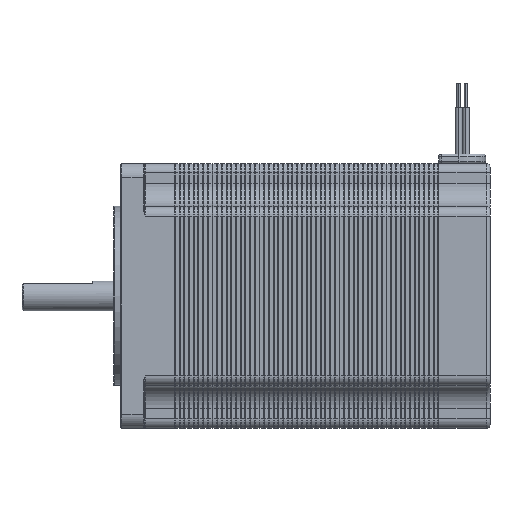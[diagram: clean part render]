
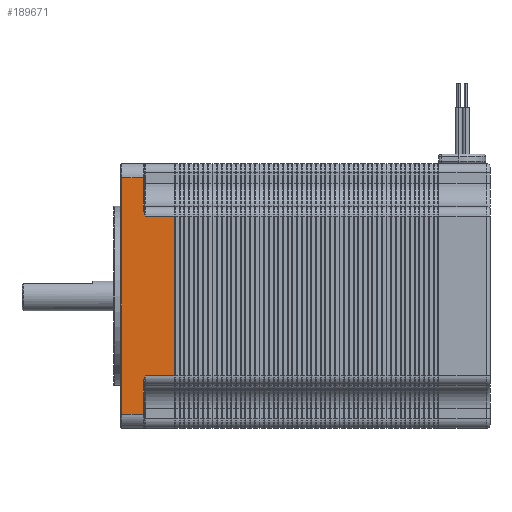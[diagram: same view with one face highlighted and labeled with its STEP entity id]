
A CAD part, left-side view. The second image highlights one B-rep face of the part: STEP entity #189671.
In plain terms, the highlighted planar face has unit normal (-1, 0, 0).
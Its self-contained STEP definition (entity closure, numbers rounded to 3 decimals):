
#402 = ORIENTED_EDGE ( 'NONE', *, *, #176997, .T. ) ;
#3460 = CARTESIAN_POINT ( 'NONE',  ( -28.15, 73.395, -17.201 ) ) ;
#3758 = EDGE_CURVE ( 'NONE', #114403, #187177, #89849, .T. ) ;
#8000 = CARTESIAN_POINT ( 'NONE',  ( -28.15, 73.7, 18.265 ) ) ;
#8196 = DIRECTION ( 'NONE',  ( 0., 1., 0. ) ) ;
#9201 = EDGE_CURVE ( 'NONE', #152617, #144584, #16132, .T. ) ;
#10884 = CARTESIAN_POINT ( 'NONE',  ( -28.15, 73.395, 17.202 ) ) ;
#12489 = VERTEX_POINT ( 'NONE', #189975 ) ;
#16132 = B_SPLINE_CURVE_WITH_KNOTS ( 'NONE', 3,
 ( #90865, #94654, #76349, #134969, #3460, #151218 ),
 .UNSPECIFIED., .F., .F.,
 ( 4, 2, 4 ),
 ( 0., 0.001, 0.001 ),
 .UNSPECIFIED. ) ;
#17826 = ORIENTED_EDGE ( 'NONE', *, *, #141565, .T. ) ;
#20924 = VECTOR ( 'NONE', #91085, 1000. ) ;
#25228 = CARTESIAN_POINT ( 'NONE',  ( -28.15, 73.3, 17. ) ) ;
#26137 = CARTESIAN_POINT ( 'NONE',  ( -28.15, 73.7, 18.265 ) ) ;
#29055 = ORIENTED_EDGE ( 'NONE', *, *, #35021, .T. ) ;
#31525 = CARTESIAN_POINT ( 'NONE',  ( -28.15, 73.7, -17. ) ) ;
#32385 = CARTESIAN_POINT ( 'NONE',  ( -28.15, 73.7, -17. ) ) ;
#34768 = ORIENTED_EDGE ( 'NONE', *, *, #144445, .T. ) ;
#35021 = EDGE_CURVE ( 'NONE', #148905, #12489, #106567, .T. ) ;
#37949 = LINE ( 'NONE', #96656, #57033 ) ;
#41232 = VECTOR ( 'NONE', #122805, 1000. ) ;
#42435 = CARTESIAN_POINT ( 'NONE',  ( -28.15, 73.642, 17.823 ) ) ;
#45924 = CARTESIAN_POINT ( 'NONE',  ( -28.15, 78.5, -17. ) ) ;
#48625 = VECTOR ( 'NONE', #78196, 1000. ) ;
#48736 = DIRECTION ( 'NONE',  ( 1., 0., 0. ) ) ;
#49688 = PLANE ( 'NONE',  #131573 ) ;
#49990 = CARTESIAN_POINT ( 'NONE',  ( -28.15, 73.3, -17. ) ) ;
#50435 = DIRECTION ( 'NONE',  ( 0., -1., 0. ) ) ;
#57033 = VECTOR ( 'NONE', #50435, 1000. ) ;
#60263 = LINE ( 'NONE', #32385, #20924 ) ;
#60661 = CARTESIAN_POINT ( 'NONE',  ( -28.15, 78.3, 25.15 ) ) ;
#61821 = DIRECTION ( 'NONE',  ( 0., 1., 0. ) ) ;
#71258 = CARTESIAN_POINT ( 'NONE',  ( -28.15, 73.491, 17.403 ) ) ;
#72640 = CARTESIAN_POINT ( 'NONE',  ( -28.15, 73.3, 17. ) ) ;
#73219 = VECTOR ( 'NONE', #8196, 1000. ) ;
#75022 = CARTESIAN_POINT ( 'NONE',  ( -28.15, 78.3, -25.15 ) ) ;
#75467 = CARTESIAN_POINT ( 'NONE',  ( -28.15, 73.7, -18.265 ) ) ;
#76349 = CARTESIAN_POINT ( 'NONE',  ( -28.15, 73.642, -17.823 ) ) ;
#76521 = EDGE_CURVE ( 'NONE', #114403, #152617, #60263, .T. ) ;
#77277 = LINE ( 'NONE', #135876, #48625 ) ;
#78196 = DIRECTION ( 'NONE',  ( 0., 0., 1. ) ) ;
#79733 = ORIENTED_EDGE ( 'NONE', *, *, #3758, .F. ) ;
#81064 = LINE ( 'NONE', #139687, #73219 ) ;
#89849 = LINE ( 'NONE', #117626, #187065 ) ;
#90865 = CARTESIAN_POINT ( 'NONE',  ( -28.15, 73.7, -18.265 ) ) ;
#91085 = DIRECTION ( 'NONE',  ( 0., 0., 1. ) ) ;
#94654 = CARTESIAN_POINT ( 'NONE',  ( -28.15, 73.7, -18.04 ) ) ;
#96656 = CARTESIAN_POINT ( 'NONE',  ( -28.15, 78.5, 17. ) ) ;
#98726 = ORIENTED_EDGE ( 'NONE', *, *, #182466, .T. ) ;
#100583 = ORIENTED_EDGE ( 'NONE', *, *, #9201, .T. ) ;
#104639 = DIRECTION ( 'NONE',  ( 0., 0., -1. ) ) ;
#105716 = B_SPLINE_CURVE_WITH_KNOTS ( 'NONE', 3,
 ( #25228, #10884, #71258, #42435, #157718, #26137 ),
 .UNSPECIFIED., .F., .F.,
 ( 4, 2, 4 ),
 ( 0., 0.001, 0.001 ),
 .UNSPECIFIED. ) ;
#106567 = LINE ( 'NONE', #31525, #41232 ) ;
#110738 = VERTEX_POINT ( 'NONE', #154236 ) ;
#111687 = CARTESIAN_POINT ( 'NONE',  ( -28.15, 78.5, -17. ) ) ;
#114403 = VERTEX_POINT ( 'NONE', #118290 ) ;
#116238 = VERTEX_POINT ( 'NONE', #183964 ) ;
#117626 = CARTESIAN_POINT ( 'NONE',  ( -28.15, 73.5, -25.15 ) ) ;
#118290 = CARTESIAN_POINT ( 'NONE',  ( -28.15, 73.7, -25.15 ) ) ;
#120215 = LINE ( 'NONE', #75022, #143227 ) ;
#121131 = DIRECTION ( 'NONE',  ( 0., 0., -1. ) ) ;
#121790 = FACE_OUTER_BOUND ( 'NONE', #176783, .T. ) ;
#122805 = DIRECTION ( 'NONE',  ( 0., 0., 1. ) ) ;
#126092 = LINE ( 'NONE', #111687, #177707 ) ;
#131573 = AXIS2_PLACEMENT_3D ( 'NONE', #45924, #48736, #104639 ) ;
#134969 = CARTESIAN_POINT ( 'NONE',  ( -28.15, 73.491, -17.403 ) ) ;
#135876 = CARTESIAN_POINT ( 'NONE',  ( -28.15, 67.1, -17. ) ) ;
#139178 = VERTEX_POINT ( 'NONE', #60661 ) ;
#139687 = CARTESIAN_POINT ( 'NONE',  ( -28.15, 73.5, 25.15 ) ) ;
#141565 = EDGE_CURVE ( 'NONE', #110738, #116238, #77277, .T. ) ;
#142379 = ORIENTED_EDGE ( 'NONE', *, *, #76521, .T. ) ;
#143227 = VECTOR ( 'NONE', #121131, 1000. ) ;
#144445 = EDGE_CURVE ( 'NONE', #177685, #148905, #105716, .T. ) ;
#144584 = VERTEX_POINT ( 'NONE', #49990 ) ;
#147109 = DIRECTION ( 'NONE',  ( 0., -1., 0. ) ) ;
#148905 = VERTEX_POINT ( 'NONE', #8000 ) ;
#150269 = EDGE_CURVE ( 'NONE', #177685, #116238, #37949, .T. ) ;
#151218 = CARTESIAN_POINT ( 'NONE',  ( -28.15, 73.3, -17. ) ) ;
#152617 = VERTEX_POINT ( 'NONE', #75467 ) ;
#154236 = CARTESIAN_POINT ( 'NONE',  ( -28.15, 67.1, -17. ) ) ;
#157561 = ORIENTED_EDGE ( 'NONE', *, *, #150269, .F. ) ;
#157718 = CARTESIAN_POINT ( 'NONE',  ( -28.15, 73.7, 18.04 ) ) ;
#163801 = EDGE_CURVE ( 'NONE', #12489, #139178, #81064, .T. ) ;
#176783 = EDGE_LOOP ( 'NONE', ( #186695, #98726, #79733, #142379, #100583, #402, #17826, #157561, #34768, #29055 ) ) ;
#176997 = EDGE_CURVE ( 'NONE', #144584, #110738, #126092, .T. ) ;
#177552 = CARTESIAN_POINT ( 'NONE',  ( -28.15, 78.3, -25.15 ) ) ;
#177685 = VERTEX_POINT ( 'NONE', #72640 ) ;
#177707 = VECTOR ( 'NONE', #147109, 1000. ) ;
#182466 = EDGE_CURVE ( 'NONE', #139178, #187177, #120215, .T. ) ;
#183964 = CARTESIAN_POINT ( 'NONE',  ( -28.15, 67.1, 17. ) ) ;
#186695 = ORIENTED_EDGE ( 'NONE', *, *, #163801, .T. ) ;
#187065 = VECTOR ( 'NONE', #61821, 1000. ) ;
#187177 = VERTEX_POINT ( 'NONE', #177552 ) ;
#189671 = ADVANCED_FACE ( 'NONE', ( #121790 ), #49688, .F. ) ;
#189975 = CARTESIAN_POINT ( 'NONE',  ( -28.15, 73.7, 25.15 ) ) ;
